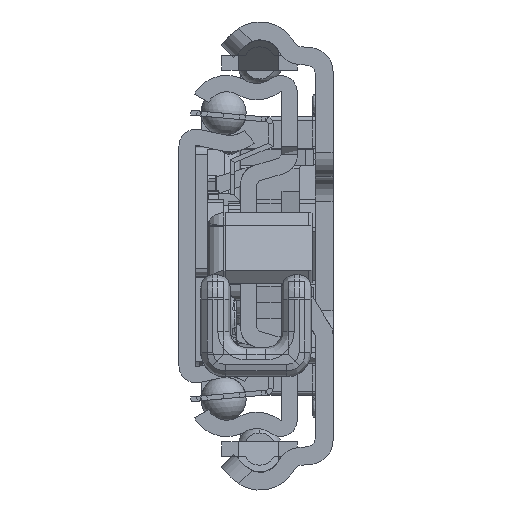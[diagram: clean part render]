
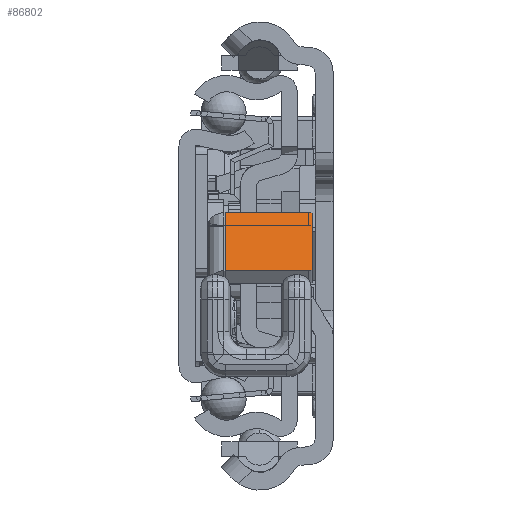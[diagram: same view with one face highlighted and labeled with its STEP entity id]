
A CAD part, left-side view. The second image highlights one B-rep face of the part: STEP entity #86802.
In plain terms, the highlighted planar face has unit normal (-0.597, 0, 0.802) as drawn and (-0.597, -0.802, 0) by its records, which use the part's own axes.
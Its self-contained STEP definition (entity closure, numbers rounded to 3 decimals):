
#86190=DIRECTION('',(0.802,-0.597,0.));
#86191=VECTOR('',#86190,12.);
#86192=CARTESIAN_POINT('',(31.957,-10.314,-0.2));
#86193=LINE('',#86192,#86191);
#86218=DIRECTION('',(0.,0.,1.));
#86219=VECTOR('',#86218,10.3);
#86220=CARTESIAN_POINT('',(41.586,-17.476,-10.5));
#86221=LINE('',#86220,#86219);
#86222=CARTESIAN_POINT('',(41.184,-17.178,-10.5));
#86223=DIRECTION('',(-0.597,-0.802,0.));
#86224=DIRECTION('',(0.,0.,-1.));
#86225=AXIS2_PLACEMENT_3D('',#86222,#86223,#86224);
#86227=DIRECTION('',(0.802,-0.597,0.));
#86228=VECTOR('',#86227,11.);
#86229=CARTESIAN_POINT('',(32.358,-10.613,-11.));
#86230=LINE('',#86229,#86228);
#86231=CARTESIAN_POINT('',(32.358,-10.613,-10.5));
#86232=DIRECTION('',(-0.597,-0.802,0.));
#86233=DIRECTION('',(-0.802,0.597,0.));
#86234=AXIS2_PLACEMENT_3D('',#86231,#86232,#86233);
#86236=DIRECTION('',(0.,0.,-1.));
#86237=VECTOR('',#86236,10.3);
#86238=CARTESIAN_POINT('',(31.957,-10.314,-0.2));
#86239=LINE('',#86238,#86237);
#86456=CARTESIAN_POINT('',(31.957,-10.314,-0.2));
#86457=CARTESIAN_POINT('',(41.586,-17.476,-0.2));
#86458=VERTEX_POINT('',#86456);
#86459=VERTEX_POINT('',#86457);
#86488=CARTESIAN_POINT('',(41.586,-17.476,-10.5));
#86489=VERTEX_POINT('',#86488);
#86490=CARTESIAN_POINT('',(32.358,-10.613,-11.));
#86491=CARTESIAN_POINT('',(41.184,-17.178,-11.));
#86492=VERTEX_POINT('',#86490);
#86493=VERTEX_POINT('',#86491);
#86494=CARTESIAN_POINT('',(31.957,-10.314,-10.5));
#86495=VERTEX_POINT('',#86494);
#86784=CARTESIAN_POINT('',(34.726,-12.374,2.));
#86785=DIRECTION('',(0.597,0.802,0.));
#86786=DIRECTION('',(0.802,-0.597,0.));
#86787=AXIS2_PLACEMENT_3D('',#86784,#86785,#86786);
#86788=PLANE('',#86787);
#86790=ORIENTED_EDGE('',*,*,#86789,.F.);
#86792=ORIENTED_EDGE('',*,*,#86791,.F.);
#86794=ORIENTED_EDGE('',*,*,#86793,.F.);
#86796=ORIENTED_EDGE('',*,*,#86795,.F.);
#86798=ORIENTED_EDGE('',*,*,#86797,.F.);
#86799=ORIENTED_EDGE('',*,*,#86771,.T.);
#86800=EDGE_LOOP('',(#86790,#86792,#86794,#86796,#86798,#86799));
#86801=FACE_OUTER_BOUND('',#86800,.F.);
#86226=CIRCLE('',#86225,0.5);
#86235=CIRCLE('',#86234,0.5);
#86771=EDGE_CURVE('',#86458,#86459,#86193,.T.);
#86789=EDGE_CURVE('',#86489,#86459,#86221,.T.);
#86791=EDGE_CURVE('',#86493,#86489,#86226,.T.);
#86793=EDGE_CURVE('',#86492,#86493,#86230,.T.);
#86795=EDGE_CURVE('',#86495,#86492,#86235,.T.);
#86797=EDGE_CURVE('',#86458,#86495,#86239,.T.);
#86802=ADVANCED_FACE('',(#86801),#86788,.F.);
